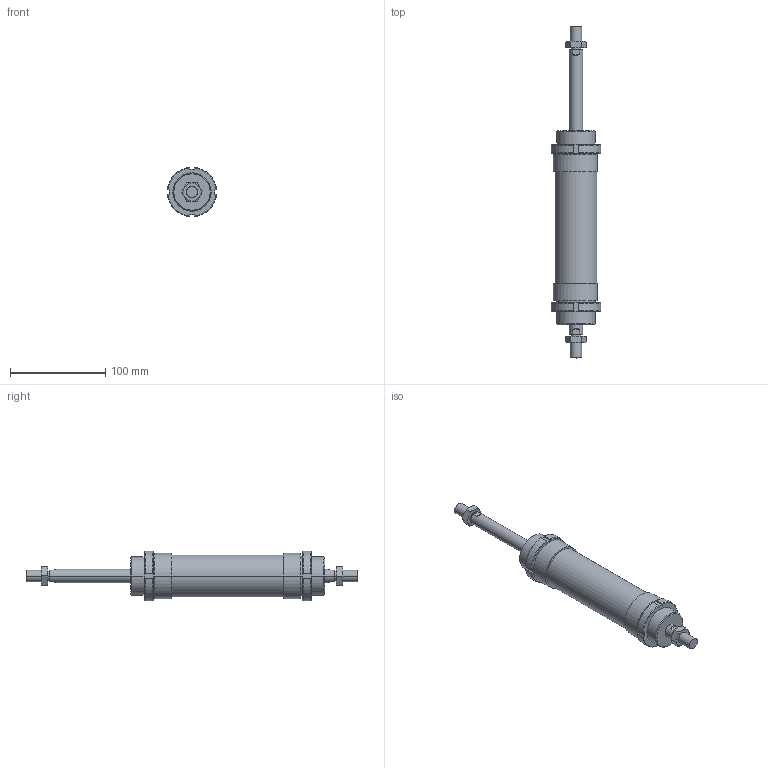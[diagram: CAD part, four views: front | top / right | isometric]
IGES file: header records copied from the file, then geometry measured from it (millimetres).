
Global section: file name: No Iges File Name specified; native system: AutoDesk Inventor R6.0; preprocessor: AutoDesk Inventor Iges Exporter R6.0; author: No Author specified; organization: No Organization specified; date: 20030403.072808; units: millimetre
Bounding box: 51.76 x 349 x 51.76 mm (x, y, z)
Volume: 343140.2 mm3; surface area: 67780.8 mm2
Topology: 6 solids, 6 shells, 182 faces, 424 edges, 264 vertices
Faces by surface type: plane 66, cone 52, bspline 30, cylinder 28, revolution 6
